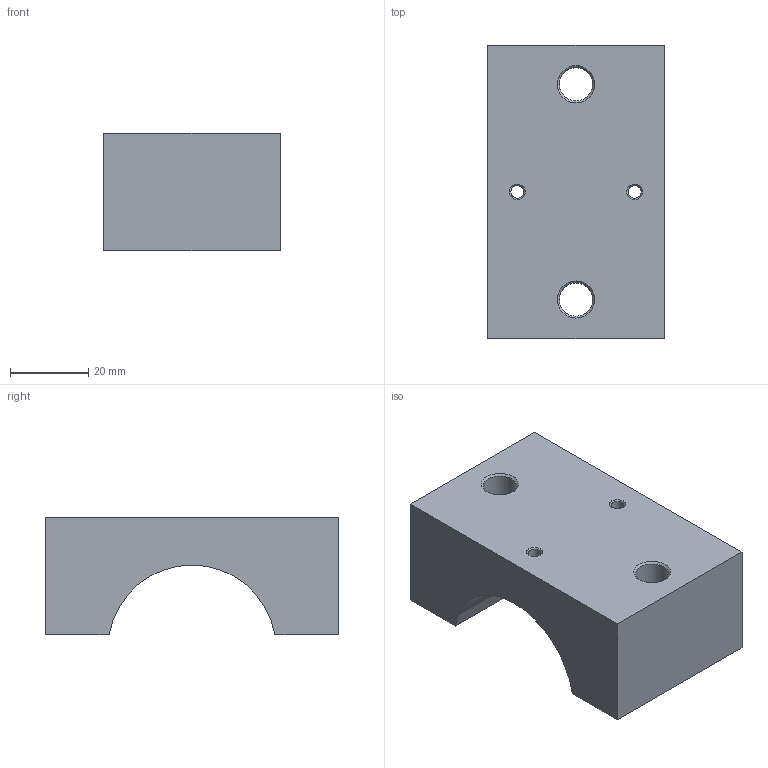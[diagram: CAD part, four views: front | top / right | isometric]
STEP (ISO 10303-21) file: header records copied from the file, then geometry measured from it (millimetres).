
FILE_DESCRIPTION(/* description */ (''),/* implementation_level */ '2;1');
FILE_NAME(/* name */ 'TRAYLOADER.83.stp',/* time_stamp */ '2025-05-12T16:10:18+02:00',/* author */ (''),/* organization */ (''),/* preprocessor_version */ 'ST-DEVELOPER v19.4',/* originating_system */ 'SIEMENS PLM Software NX2306.5001',/* authorisation */ '');
FILE_SCHEMA (('AP203_CONFIGURATION_CONTROLLED_3D_DESIGN_OF_MECHANICAL_PARTS_AND_ASSEMBLIES_MIM_LF { 1 0 10303 403 2 1 2}'));
Length unit declared in the file: millimetre
Products named in the file (1): TRAYLOADER.83_objects
Bounding box: 45 x 75 x 30 mm (x, y, z)
Volume: 72070.5 mm3; surface area: 15173.8 mm2
Topology: 1 solids, 1 shells, 18 faces, 46 edges, 30 vertices
Faces by surface type: plane 7, cone 6, cylinder 5
Full cylindrical faces by diameter (mm): 3.3 x2, 8.5 x2
Entity records: 674 total; most frequent: CARTESIAN_POINT 191, DIRECTION 82, ORIENTED_EDGE 64, EDGE_LOOP 36, AXIS2_PLACEMENT_3D 33, FACE_BOUND 32, EDGE_CURVE 32, VERTEX_POINT 26
